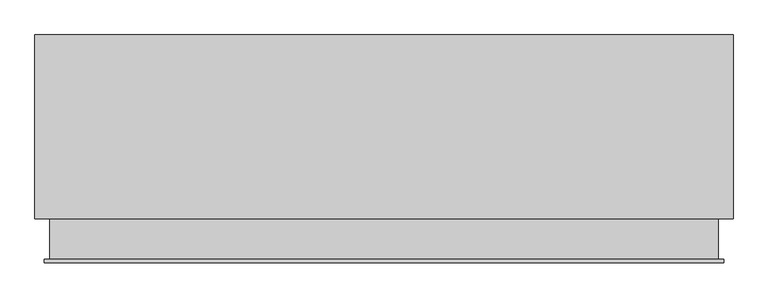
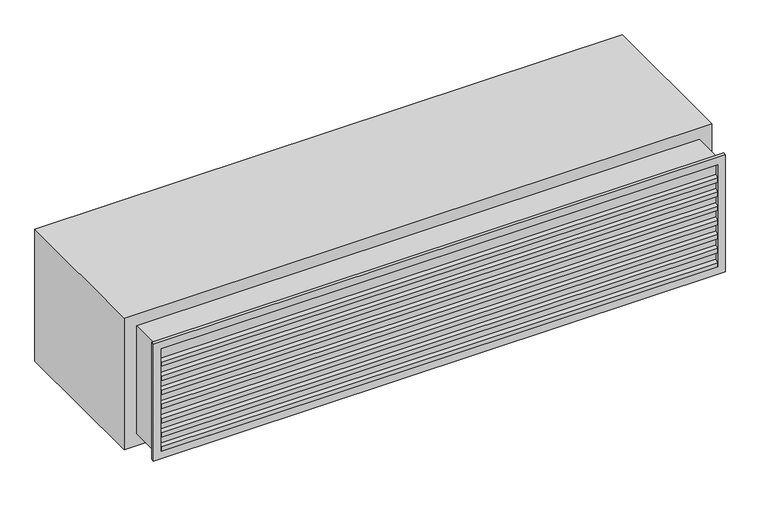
"""IFC4 building model written with IfcOpenShell, lengths in millimetres: air terminal geometry, 020_外気取入ガラリ : 外気取入ガラリ."""

import ifcopenshell
import ifcopenshell.guid

model = None  # the IFC model being written
_history = None  # IfcOwnerHistory: only IFC2X3 demands one
_inside = {}  # id of a spatial element -> (the spatial element, [elements in it])
_under = {}  # id of a project, library or spatial element -> (it, [spatial elements below it])
_declared = {}  # id of a project -> (the project, [libraries it declares])
_typed = {}  # id of a type object -> (the type object, [elements of that type])
_made_of = {}  # id of a material, layer set ... -> (it, [elements and type objects made of it])


def new_model(schema):
    """Start an empty IFC model of exactly this schema.

    Asked for "IFC4X3", IfcOpenShell would pick the latest addendum, in which some entities
    have other attributes; the version numbers below select the first issue.
    IFC2X3 requires an IfcOwnerHistory on every rooted entity: one is made here for all.
    """
    global model, _history
    if schema == "IFC4X3":
        model = ifcopenshell.file(schema_version=(4, 3, 0, 0))
    else:
        model = ifcopenshell.file(schema=schema)
    _inside.clear()
    _under.clear()
    _declared.clear()
    _typed.clear()
    _made_of.clear()
    _history = None
    if model.schema == "IFC2X3":
        org = make("IfcOrganization", Name="unknown")
        user = make(
            "IfcPersonAndOrganization",
            ThePerson=make("IfcPerson", FamilyName="unknown"),
            TheOrganization=org,
        )
        app = make(
            "IfcApplication",
            ApplicationDeveloper=org,
            Version="unknown",
            ApplicationFullName="unknown",
            ApplicationIdentifier="unknown",
        )
        _history = make(
            "IfcOwnerHistory",
            OwningUser=user,
            OwningApplication=app,
            ChangeAction="ADDED",
            CreationDate=0,
        )
    return model


def make(cls, **values):
    """One entity of the class cls with the attributes given. An attribute that is None is left unset."""
    return model.create_entity(
        cls, **{name: value for name, value in values.items() if value is not None}
    )


def rooted(cls, **values):
    """An entity with a GlobalId (a new one), such as an element, a storey or a relation."""
    return make(cls, GlobalId=ifcopenshell.guid.new(), OwnerHistory=_history, **values)


def si_unit(unit_type, name, prefix=None):
    """IfcSIUnit, for example si_unit("LENGTHUNIT", "METRE", prefix="MILLI")."""
    return make("IfcSIUnit", UnitType=unit_type, Prefix=prefix, Name=name)


def assignment(units):
    """IfcUnitAssignment: the units of a project."""
    return None if units is None else make("IfcUnitAssignment", Units=units)


def point(xyz):
    """IfcCartesianPoint."""
    return None if xyz is None else make("IfcCartesianPoint", Coordinates=xyz)


def direction(xyz):
    """IfcDirection."""
    return None if xyz is None else make("IfcDirection", DirectionRatios=xyz)


def frame(location, z_axis=None, x_axis=None):
    """IfcAxis2Placement3D, a coordinate frame: its origin and axes. An axis left out is left unset."""
    return make(
        "IfcAxis2Placement3D",
        Location=point(location),
        Axis=direction(z_axis),
        RefDirection=direction(x_axis),
    )


def origin():
    """The frame at (0, 0, 0) with its axes left unset."""
    return frame((0.0, 0.0, 0.0))


def place(relative_to, where):
    """IfcLocalPlacement: puts the frame where relative to a parent placement (None: the world)."""
    return make(
        "IfcLocalPlacement", PlacementRelTo=relative_to, RelativePlacement=where
    )


def context(
    kind, dimensions, precision=None, world=None, true_north=None, identifier=None
):
    """IfcGeometricRepresentationContext, for example the 3D "Model" context."""
    return make(
        "IfcGeometricRepresentationContext",
        ContextIdentifier=identifier,
        ContextType=kind,
        CoordinateSpaceDimension=dimensions,
        Precision=precision,
        WorldCoordinateSystem=world,
        TrueNorth=true_north,
    )


def project(units=None, contexts=None):
    """IfcProject with its units and contexts."""
    return rooted(
        "IfcProject",
        Name="project",
        RepresentationContexts=contexts,
        UnitsInContext=assignment(units),
    )


def spatial(cls, under=None, at=None, **own):
    """A site, building, storey or space (cls), placed at a placement, below another one or the project."""
    s = rooted(cls, ObjectPlacement=at, **own)
    if under is not None:
        _under.setdefault(under.id(), (under, []))[1].append(s)
    return s


def polyline(points):
    """IfcPolyline through the points."""
    return make("IfcPolyline", Points=[point(p) for p in points])


def outline(outer, holes=None, kind="AREA"):
    """IfcArbitraryClosedProfileDef: a profile drawn as a closed curve; with holes, ...WithVoids."""
    if holes is None:
        return make("IfcArbitraryClosedProfileDef", ProfileType=kind, OuterCurve=outer)
    return make(
        "IfcArbitraryProfileDefWithVoids",
        ProfileType=kind,
        OuterCurve=outer,
        InnerCurves=holes,
    )


def extrude(swept, where, along, depth):
    """IfcExtrudedAreaSolid: the profile swept, set in the frame where, extruded along a direction by depth."""
    return make(
        "IfcExtrudedAreaSolid",
        SweptArea=swept,
        Position=where,
        ExtrudedDirection=direction(along),
        Depth=depth,
    )


def faces_of(points, faces, orient=None, outer=None):
    """IfcFace entities. A face is a list of loops; a loop is a list of indices into points, from 0.

    orient and outer hold one flag for each loop. By default every Orientation is true, the
    first loop of a face is its IfcFaceOuterBound and the others are IfcFaceBound.
    """
    made = []
    for i, loops in enumerate(faces):
        bounds = []
        for j, loop in enumerate(loops):
            is_outer = j == 0 if outer is None else outer[i][j]
            bounds.append(
                make(
                    "IfcFaceOuterBound" if is_outer else "IfcFaceBound",
                    Bound=make("IfcPolyLoop", Polygon=[points[k] for k in loop]),
                    Orientation=True if orient is None else orient[i][j],
                )
            )
        made.append(make("IfcFace", Bounds=bounds))
    return made


def faceted_brep(points, faces, orient=None, outer=None, voids=None):
    """IfcFacetedBrep: a solid bounded by flat faces; with voids (closed shells), ...WithVoids."""
    shared = [point(p) for p in points]
    hull = make("IfcClosedShell", CfsFaces=faces_of(shared, faces, orient, outer))
    if voids is None:
        return make("IfcFacetedBrep", Outer=hull)
    return make(
        "IfcFacetedBrepWithVoids",
        Outer=hull,
        Voids=[
            make(cls, CfsFaces=faces_of(shared, fs, o, b)) for cls, fs, o, b in voids
        ],
    )


def shape(context_of_items, identifier, shape_type, items):
    """IfcShapeRepresentation: the items that make up one representation, for example the "Body"."""
    return make(
        "IfcShapeRepresentation",
        ContextOfItems=context_of_items,
        RepresentationIdentifier=identifier,
        RepresentationType=shape_type,
        Items=items,
    )


def source(mapping_origin, context_of_items, identifier, shape_type, items):
    """IfcRepresentationMap: a shape defined once, which mapped items show again and again."""
    return make(
        "IfcRepresentationMap",
        MappingOrigin=mapping_origin,
        MappedRepresentation=shape(context_of_items, identifier, shape_type, items),
    )


def transform(
    local_origin,
    x_axis=None,
    y_axis=None,
    z_axis=None,
    scale=None,
    scale2=None,
    scale3=None,
    uniform=True,
):
    """IfcCartesianTransformationOperator3D, or its non-uniform kind. x_axis, y_axis, z_axis: its Axis1, 2, 3."""
    if uniform:
        return make(
            "IfcCartesianTransformationOperator3D",
            Axis1=direction(x_axis),
            Axis2=direction(y_axis),
            LocalOrigin=point(local_origin),
            Scale=scale,
            Axis3=direction(z_axis),
        )
    return make(
        "IfcCartesianTransformationOperator3DnonUniform",
        Axis1=direction(x_axis),
        Axis2=direction(y_axis),
        LocalOrigin=point(local_origin),
        Scale=scale,
        Axis3=direction(z_axis),
        Scale2=scale2,
        Scale3=scale3,
    )


def mapped(mapping_source, mapping_target):
    """IfcMappedItem: shows the shape of a source again, moved by a transform."""
    return make(
        "IfcMappedItem", MappingSource=mapping_source, MappingTarget=mapping_target
    )


def made_of(thing, what):
    """Note that an element or type object is made of a material, layer set ...; save() writes the relation."""
    if what is not None:
        _made_of.setdefault(what.id(), (what, []))[1].append(thing)
    return thing


def element(
    cls,
    number,
    at=None,
    inside=None,
    cuts=None,
    type_object=None,
    material=None,
    context=None,
    identifier="Body",
    shape_type=None,
    held_by="IfcProductDefinitionShape",
    body=None,
    shapes=None,
    **own,
):
    """One element of the class cls, such as IfcWall. Its Tag is "e" and its number.

    at: its placement. inside: the storey or other place that contains it. cuts: it is an
    opening in that element (IfcRelVoidsElement). A single representation is given by context,
    identifier, shape_type and body (its items); several are given by shapes. held_by: the class
    of the entity that holds the representations. save() writes the other relations.
    """
    e = rooted(cls, Tag="e%d" % number, ObjectPlacement=at, **own)
    if body is not None:
        shapes = [shape(context, identifier, shape_type, body)]
    if shapes is not None:
        e.Representation = make(held_by, Representations=shapes)
    if inside is not None:
        _inside.setdefault(inside.id(), (inside, []))[1].append(e)
    if cuts is not None:
        rooted(
            "IfcRelVoidsElement", RelatingBuildingElement=cuts, RelatedOpeningElement=e
        )
    if type_object is not None:
        _typed.setdefault(type_object.id(), (type_object, []))[1].append(e)
    return made_of(e, material)


def aggregate(whole, parts):
    """IfcRelAggregates: a whole, such as a stair, and the parts it consists of."""
    return rooted("IfcRelAggregates", RelatingObject=whole, RelatedObjects=parts)


def save(model, path):
    """Write the relations noted so far, then the file.

    IfcRelAggregates (storeys below a building ...), IfcRelContainedInSpatialStructure (elements
    in a storey), IfcRelDefinesByType, IfcRelAssociatesMaterial and IfcRelDeclares: one each for
    every whole, place, type object, material and project.
    """
    for whole, parts in _under.values():
        aggregate(whole, parts)
    for where, things in _inside.values():
        rooted(
            "IfcRelContainedInSpatialStructure",
            RelatedElements=things,
            RelatingStructure=where,
        )
    for kind, things in _typed.values():
        rooted("IfcRelDefinesByType", RelatedObjects=things, RelatingType=kind)
    for what, things in _made_of.values():
        rooted("IfcRelAssociatesMaterial", RelatedObjects=things, RelatingMaterial=what)
    for by, libraries in _declared.values():
        rooted("IfcRelDeclares", RelatingContext=by, RelatedDefinitions=libraries)
    model.write(path)


def air_terminal_19119924(model_context):
    return source(origin(), model_context, "Body", "SolidModel", [
        extrude(outline(polyline([(48.0, 126.6666667), (50.0, 126.6666667), (50.0, 110.4494491), (-8.0, 80.4494491), (-8.0, 66.6666667), (-10.0, 66.6666667), (-10.0, 81.6666667), (48.0, 111.6666667), (48.0, 126.6666667)])), frame((-900.0, 0.0, 0.0), z_axis=(1.0, 0.0, 0.0), x_axis=(0.0, 1.0, 0.0)), (0.0, 0.0, 1.0), 1800.0),
        extrude(outline(polyline([(48.0, 78.3333333), (50.0, 78.3333333), (50.0, 62.1161157), (-8.0, 32.1161157), (-8.0, 18.3333333), (-10.0, 18.3333333), (-10.0, 33.3333333), (48.0, 63.3333333), (48.0, 78.3333333)])), frame((-900.0, 0.0, 0.0), z_axis=(1.0, 0.0, 0.0), x_axis=(0.0, 1.0, 0.0)), (0.0, 0.0, 1.0), 1800.0),
        extrude(outline(polyline([(48.0, 30.0), (50.0, 30.0), (50.0, 13.7827824), (-8.0, -16.2172176), (-8.0, -30.0), (-10.0, -30.0), (-10.0, -15.0), (48.0, 15.0), (48.0, 30.0)])), frame((-900.0, 0.0, 0.0), z_axis=(1.0, 0.0, 0.0), x_axis=(0.0, 1.0, 0.0)), (0.0, 0.0, 1.0), 1800.0),
        extrude(outline(polyline([(48.0, -18.3333333), (50.0, -18.3333333), (50.0, -34.5505509), (-8.0, -64.5505509), (-8.0, -78.3333333), (-10.0, -78.3333333), (-10.0, -63.3333333), (48.0, -33.3333333), (48.0, -18.3333333)])), frame((-900.0, 0.0, 0.0), z_axis=(1.0, 0.0, 0.0), x_axis=(0.0, 1.0, 0.0)), (0.0, 0.0, 1.0), 1800.0),
        extrude(outline(polyline([(48.0, -66.6666667), (50.0, -66.6666667), (50.0, -82.8838843), (-8.0, -112.8838843), (-8.0, -126.6666667), (-10.0, -126.6666667), (-10.0, -111.6666667), (48.0, -81.6666667), (48.0, -66.6666667)])), frame((-900.0, 0.0, 0.0), z_axis=(1.0, 0.0, 0.0), x_axis=(0.0, 1.0, 0.0)), (0.0, 0.0, 1.0), 1800.0),
        extrude(outline(polyline([(48.0, 175.0), (50.0, 175.0), (50.0, 158.7827824), (-8.0, 128.7827824), (-8.0, 115.0), (-10.0, 115.0), (-10.0, 130.0), (48.0, 160.0), (48.0, 175.0)])), frame((-900.0, 0.0, 0.0), z_axis=(1.0, 0.0, 0.0), x_axis=(0.0, 1.0, 0.0)), (0.0, 0.0, 1.0), 1800.0),
        extrude(outline(polyline([(48.0, -115.0), (50.0, -115.0), (50.0, -131.2172176), (-8.0, -161.2172176), (-8.0, -175.0), (-10.0, -175.0), (-10.0, -160.0), (48.0, -130.0), (48.0, -115.0)])), frame((-900.0, 0.0, 0.0), z_axis=(1.0, 0.0, 0.0), x_axis=(0.0, 1.0, 0.0)), (0.0, 0.0, 1.0), 1800.0),
        faceted_brep([(900.0, -10.0, 175.0), (900.0, 110.0, 175.0), (900.0, 110.0, -175.0), (900.0, -10.0, -175.0), (925.0, 0.0, 200.0), (925.0, -10.0, 200.0), (925.0, -10.0, -200.0), (925.0, 0.0, -200.0), (910.0, 110.0, 185.0), (910.0, 0.0, 185.0), (910.0, 0.0, -185.0), (910.0, 110.0, -185.0), (-900.0, 110.0, -175.0), (-900.0, -10.0, -175.0), (-925.0, -10.0, -200.0), (-925.0, 0.0, -200.0), (-910.0, 0.0, -185.0), (-910.0, 110.0, -185.0), (-900.0, 110.0, 175.0), (-900.0, -10.0, 175.0), (-925.0, -10.0, 200.0), (-925.0, 0.0, 200.0), (-910.0, 0.0, 185.0), (-910.0, 110.0, 185.0)], [[[0, 1, 2, 3]], [[4, 5, 6, 7]], [[8, 9, 10, 11]], [[3, 2, 12, 13]], [[7, 6, 14, 15]], [[11, 10, 16, 17]], [[13, 12, 18, 19]], [[15, 14, 20, 21]], [[17, 16, 22, 23]], [[19, 18, 1, 0]], [[5, 20, 14, 6], [3, 13, 19, 0]], [[21, 20, 5, 4]], [[7, 15, 21, 4], [9, 22, 16, 10]], [[23, 22, 9, 8]], [[11, 17, 23, 8], [1, 18, 12, 2]]]),
        extrude(outline(polyline([(900.0, 0.0), (-900.0, 0.0), (-900.0, 10.0), (900.0, 10.0), (900.0, 0.0)])), frame((0.0, 0.0, -175.0), z_axis=(0.0, 0.0, 1.0), x_axis=(1.0, 0.0, 0.0)), (0.0, 0.0, 1.0), 350.0),
        extrude(outline(polyline([(950.0, 110.0), (-950.0, 110.0), (-950.0, 610.0), (950.0, 610.0), (950.0, 110.0)])), frame((0.0, 0.0, -225.0), z_axis=(0.0, 0.0, 1.0), x_axis=(1.0, 0.0, 0.0)), (0.0, 0.0, 1.0), 450.0),
    ])


if __name__ == "__main__":
    model = new_model("IFC4")
    model_context = context("Model", 3, world=origin())
    ifc_project = project(units=[si_unit("LENGTHUNIT", "METRE", prefix="MILLI")], contexts=[model_context])
    site = spatial("IfcSite", under=ifc_project)
    building = spatial("IfcBuilding", under=site)
    placement = place(None, origin())
    air_terminal_shape = air_terminal_19119924(model_context)
    element("IfcAirTerminal", 1, ObjectType="020_外気取入ガラリ : 外気取入ガラリ", at=placement, inside=building, context=model_context, shape_type="MappedRepresentation", body=[
        mapped(air_terminal_shape, transform((0.0, 0.0, 0.0), x_axis=(1.0, 0.0, 0.0), y_axis=(0.0, 1.0, 0.0), z_axis=(0.0, 0.0, 1.0))),
    ])
    save(model, "model.ifc")
